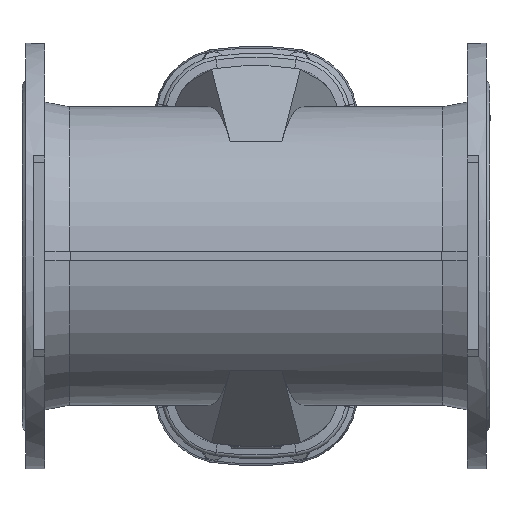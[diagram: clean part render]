
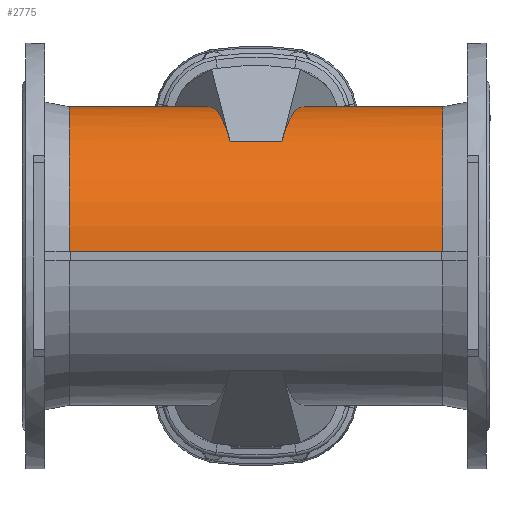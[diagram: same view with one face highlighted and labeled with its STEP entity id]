
A CAD part, front view. The second image highlights one B-rep face of the part: STEP entity #2775.
In plain terms, the highlighted cylindrical face has radius 159.5 mm (diameter 319 mm), a partial arc.
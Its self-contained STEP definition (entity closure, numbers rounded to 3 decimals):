
#496 = AXIS2_PLACEMENT_3D ( 'NONE', #8079, #8037, #8036 ) ;
#828 = ORIENTED_EDGE ( 'NONE', *, *, #14858, .T. ) ;
#847 = ORIENTED_EDGE ( 'NONE', *, *, #14847, .F. ) ;
#868 = VERTEX_POINT ( 'NONE', #8134 ) ;
#874 = VERTEX_POINT ( 'NONE', #8432 ) ;
#921 = VERTEX_POINT ( 'NONE', #8448 ) ;
#922 = VERTEX_POINT ( 'NONE', #8237 ) ;
#923 = VERTEX_POINT ( 'NONE', #8401 ) ;
#924 = VERTEX_POINT ( 'NONE', #8185 ) ;
#948 = VERTEX_POINT ( 'NONE', #8133 ) ;
#949 = VERTEX_POINT ( 'NONE', #8442 ) ;
#1522 = CIRCLE ( 'NONE', #11298, 159.5 ) ;
#1529 = LINE ( 'NONE', #5834, #1531 ) ;
#1530 = LINE ( 'NONE', #5893, #1540 ) ;
#1531 = VECTOR ( 'NONE', #5838, 1000. ) ;
#1539 = CIRCLE ( 'NONE', #11307, 159.5 ) ;
#1540 = VECTOR ( 'NONE', #5889, 1000. ) ;
#1544 = LINE ( 'NONE', #5903, #1546 ) ;
#1545 = LINE ( 'NONE', #5911, #1548 ) ;
#1546 = VECTOR ( 'NONE', #5904, 1000. ) ;
#1548 = VECTOR ( 'NONE', #5912, 1000. ) ;
#2775 = ADVANCED_FACE ( 'NONE', ( #3289 ), #3290, .T. ) ;
#3289 = FACE_OUTER_BOUND ( 'NONE', #8647, .T. ) ;
#3290 = CYLINDRICAL_SURFACE ( 'NONE', #496, 159.5 ) ;
#3822 = ORIENTED_EDGE ( 'NONE', *, *, #14872, .T. ) ;
#3846 = ORIENTED_EDGE ( 'NONE', *, *, #14837, .F. ) ;
#3963 = ORIENTED_EDGE ( 'NONE', *, *, #14853, .T. ) ;
#3967 = ORIENTED_EDGE ( 'NONE', *, *, #14859, .F. ) ;
#4016 = ORIENTED_EDGE ( 'NONE', *, *, #14844, .F. ) ;
#4035 = ORIENTED_EDGE ( 'NONE', *, *, #14852, .T. ) ;
#4134 =( BOUNDED_CURVE ( )  B_SPLINE_CURVE ( 3, ( #5842, #5843, #5850, #5851 ),
 .UNSPECIFIED., .F., .F. ) 
 B_SPLINE_CURVE_WITH_KNOTS ( ( 4, 4 ),
 ( 3.213, 5.451 ),
 .UNSPECIFIED. ) 
 CURVE ( )  GEOMETRIC_REPRESENTATION_ITEM ( )  RATIONAL_B_SPLINE_CURVE ( ( 1., 0.625, 0.625, 1. ) ) 
 REPRESENTATION_ITEM ( '' )  );
#4135 =( BOUNDED_CURVE ( )  B_SPLINE_CURVE ( 3, ( #5946, #5951, #5952, #5953 ),
 .UNSPECIFIED., .F., .F. ) 
 B_SPLINE_CURVE_WITH_KNOTS ( ( 4, 4 ),
 ( 3.213, 5.451 ),
 .UNSPECIFIED. ) 
 CURVE ( )  GEOMETRIC_REPRESENTATION_ITEM ( )  RATIONAL_B_SPLINE_CURVE ( ( 1., 0.625, 0.625, 1. ) ) 
 REPRESENTATION_ITEM ( '' )  );
#5834 = CARTESIAN_POINT ( 'NONE',  ( -83., 159.422, 5. ) ) ;
#5838 = DIRECTION ( 'NONE',  ( 1., 0., 0. ) ) ;
#5842 = CARTESIAN_POINT ( 'NONE',  ( -86.841, 159.422, 5. ) ) ;
#5843 = CARTESIAN_POINT ( 'NONE',  ( -84.408, 154.62, 158.091 ) ) ;
#5850 = CARTESIAN_POINT ( 'NONE',  ( -52.853, 14.807, 220.637 ) ) ;
#5851 = CARTESIAN_POINT ( 'NONE',  ( -27.721, -102.525, 122.184 ) ) ;
#5889 = DIRECTION ( 'NONE',  ( -1., 0., 0. ) ) ;
#5893 = CARTESIAN_POINT ( 'NONE',  ( 83., 159.422, 5. ) ) ;
#5894 = CARTESIAN_POINT ( 'NONE',  ( -199.777, 0., 0. ) ) ;
#5895 = DIRECTION ( 'NONE',  ( 1., 0., 0. ) ) ;
#5896 = DIRECTION ( 'NONE',  ( 0., 0., -1. ) ) ;
#5903 = CARTESIAN_POINT ( 'NONE',  ( 83., -102.525, 122.184 ) ) ;
#5904 = DIRECTION ( 'NONE',  ( -1., 0., 0. ) ) ;
#5911 = CARTESIAN_POINT ( 'NONE',  ( 83., -159.422, 5. ) ) ;
#5912 = DIRECTION ( 'NONE',  ( -1., 0., 0. ) ) ;
#5946 = CARTESIAN_POINT ( 'NONE',  ( 86.841, 159.422, 5. ) ) ;
#5951 = CARTESIAN_POINT ( 'NONE',  ( 84.408, 154.62, 158.091 ) ) ;
#5952 = CARTESIAN_POINT ( 'NONE',  ( 52.853, 14.807, 220.637 ) ) ;
#5953 = CARTESIAN_POINT ( 'NONE',  ( 27.721, -102.525, 122.184 ) ) ;
#8036 = DIRECTION ( 'NONE',  ( 0., 0., 1. ) ) ;
#8037 = DIRECTION ( 'NONE',  ( -1., 0., 0. ) ) ;
#8079 = CARTESIAN_POINT ( 'NONE',  ( 83., 0., 0. ) ) ;
#8133 = CARTESIAN_POINT ( 'NONE',  ( -27.721, -102.525, 122.184 ) ) ;
#8134 = CARTESIAN_POINT ( 'NONE',  ( 199.777, 159.422, 5. ) ) ;
#8185 = CARTESIAN_POINT ( 'NONE',  ( -199.777, 159.422, 5. ) ) ;
#8237 = CARTESIAN_POINT ( 'NONE',  ( 86.841, 159.422, 5. ) ) ;
#8401 = CARTESIAN_POINT ( 'NONE',  ( -86.841, 159.422, 5. ) ) ;
#8432 = CARTESIAN_POINT ( 'NONE',  ( 199.777, -159.422, 5. ) ) ;
#8442 = CARTESIAN_POINT ( 'NONE',  ( 27.721, -102.525, 122.184 ) ) ;
#8448 = CARTESIAN_POINT ( 'NONE',  ( -199.777, -159.422, 5. ) ) ;
#8647 = EDGE_LOOP ( 'NONE', ( #3967, #3846, #3963, #3822, #828, #847, #4016, #4035 ) ) ;
#11198 = CARTESIAN_POINT ( 'NONE',  ( 199.777, 0., 0. ) ) ;
#11199 = DIRECTION ( 'NONE',  ( 1., 0., 0. ) ) ;
#11200 = DIRECTION ( 'NONE',  ( 0., 0., -1. ) ) ;
#11298 = AXIS2_PLACEMENT_3D ( 'NONE', #11198, #11199, #11200 ) ;
#11307 = AXIS2_PLACEMENT_3D ( 'NONE', #5894, #5895, #5896 ) ;
#14837 = EDGE_CURVE ( 'NONE', #868, #874, #1522, .T. ) ;
#14844 = EDGE_CURVE ( 'NONE', #924, #923, #1529, .T. ) ;
#14847 = EDGE_CURVE ( 'NONE', #923, #948, #4134, .T. ) ;
#14852 = EDGE_CURVE ( 'NONE', #924, #921, #1539, .T. ) ;
#14853 = EDGE_CURVE ( 'NONE', #868, #922, #1530, .T. ) ;
#14858 = EDGE_CURVE ( 'NONE', #949, #948, #1544, .T. ) ;
#14859 = EDGE_CURVE ( 'NONE', #874, #921, #1545, .T. ) ;
#14872 = EDGE_CURVE ( 'NONE', #922, #949, #4135, .T. ) ;
